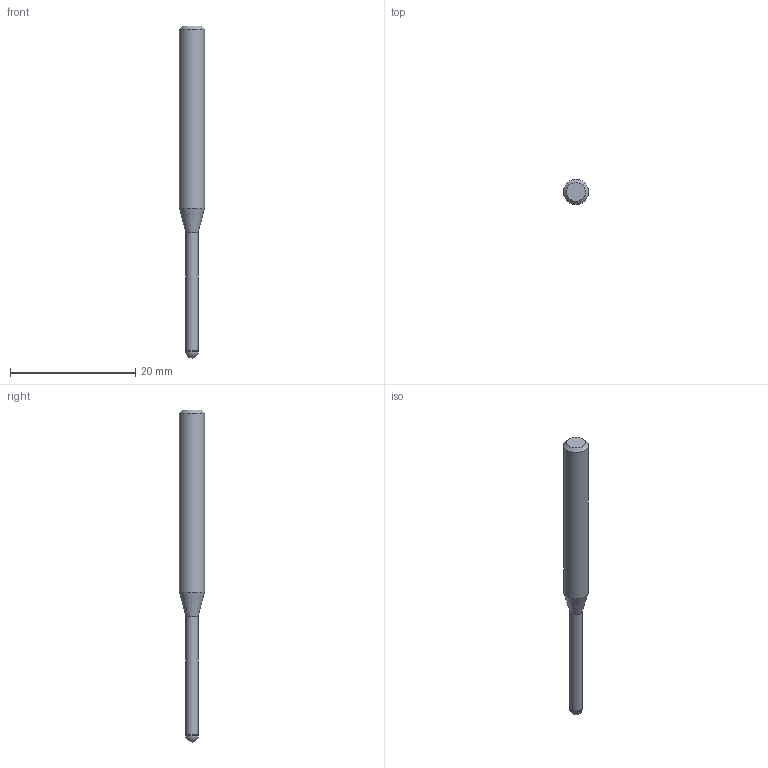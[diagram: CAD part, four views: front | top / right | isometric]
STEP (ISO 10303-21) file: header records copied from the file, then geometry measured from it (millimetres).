
FILE_DESCRIPTION((''),'2;1');
FILE_NAME('C:\Users\nsx150\AppData\Local\Temp\Mastercam 2021\LJSIDMOTM8\TEMP.step','2021-08-03T14:24:20',(''),(''),'STEP Write','Mastercam 2021 ... CNC Software, Inc.','');
FILE_SCHEMA(('AUTOMOTIVE_DESIGN'));
Length unit declared in the file: millimetre
Products named in the file (1): None
Bounding box: 4 x 4 x 53 mm (x, y, z)
Volume: 450.9 mm3; surface area: 540.3 mm2
Topology: 2 solids, 2 shells, 9 faces, 14 edges, 8 vertices
Faces by surface type: plane 3, cylinder 3, cone 2, sphere 1
Full cylindrical faces by diameter (mm): 1.94 x1, 2 x1, 4 x1
Entity records: 211 total; most frequent: DIRECTION 36, CARTESIAN_POINT 25, AXIS2_PLACEMENT_3D 18, ORIENTED_EDGE 14, EDGE_LOOP 14, STYLED_ITEM 12, ADVANCED_FACE 9, FACE_BOUND 8
